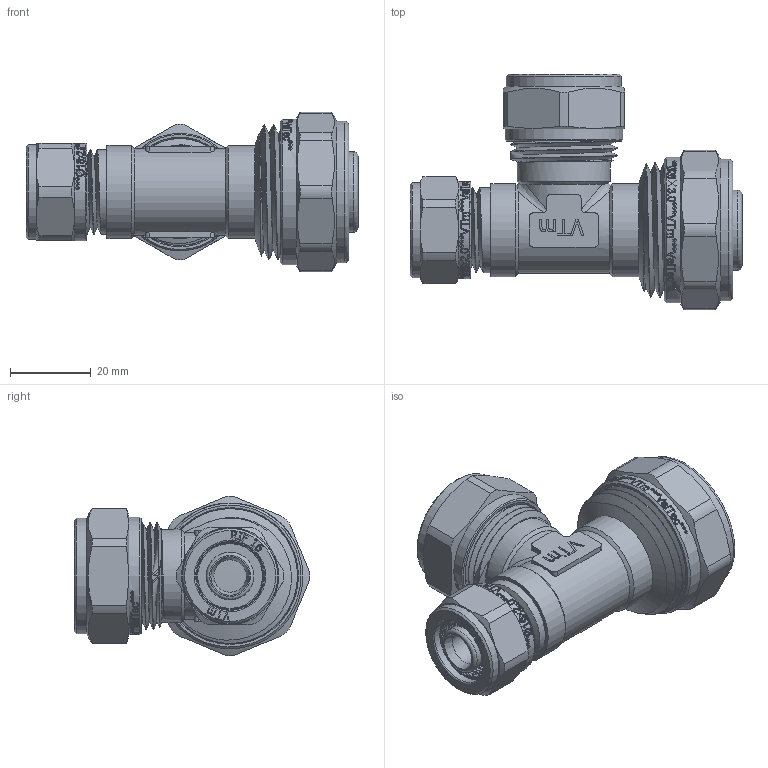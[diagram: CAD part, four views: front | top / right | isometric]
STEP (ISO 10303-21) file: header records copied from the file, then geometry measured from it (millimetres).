
FILE_DESCRIPTION(/* description */ (''),/* implementation_level */ '2;1');
FILE_NAME(/* name */ 'E:\Артём\00000\Работа удаленка\Обжимные фитинги\VTm.331.N.262016.stp',/* time_stamp */ '2020-06-30T13:05:32+03:00',/* author */ ('BeN_GaN'),/* organization */ (''),/* preprocessor_version */ 'ST-DEVELOPER v18',/* originating_system */ 'Autodesk Inventor 2020',/* authorisation */ '');
FILE_SCHEMA (('AUTOMOTIVE_DESIGN { 1 0 10303 214 3 1 1 }'));
Products named in the file (1): VTm.331.N.262016
Bounding box: 82 x 58.19 x 39.39 mm (x, y, z)
Volume: 40608.2 mm3; surface area: 30355.7 mm2
Topology: 2 solids, 3 shells, 2023 faces, 5694 edges, 3838 vertices
Faces by surface type: bspline 1086, plane 565, cylinder 248, torus 71, cone 53
Full cylindrical faces by diameter (mm): 8 x1, 9.4 x2, 11.5 x1, 11.75 x4, 13.4 x2, 15 x1, 15.75 x4, 16 x4, 16.2 x1, 16.6 x5, 17 x1, 17.4 x5, 18.6 x2, 19.8 x5, 19.986 x4, 20.2 x1, 20.728 x5, 21 x3, 22.8 x5, 23 x3, 23.201 x1, 23.5 x1, 24 x1, 24.2 x2, 24.516 x4, 25.435 x5, 26.2 x1, 26.4 x3, 26.7 x1, 28.5 x2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
Entity records: 87774 total; most frequent: CARTESIAN_POINT 42365, ORIENTED_EDGE 11396, DIRECTION 6088, EDGE_CURVE 5698, VERTEX_POINT 3842, LINE 2418, VECTOR 2418, B_SPLINE_CURVE_WITH_KNOTS 2329
